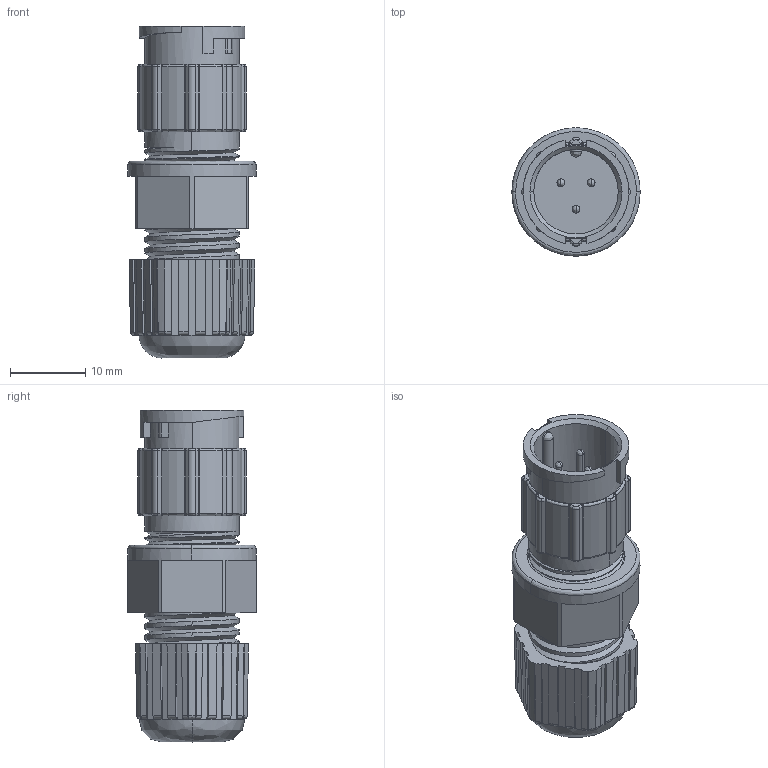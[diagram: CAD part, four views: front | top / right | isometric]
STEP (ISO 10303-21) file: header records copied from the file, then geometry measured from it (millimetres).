
FILE_DESCRIPTION (( 'STEP AP203' ), '1' );
FILE_NAME ('868-03B-103KIT.STEP', '2025-12-17T18:11:48', ( '' ), ( '' ), 'SwSTEP 2.0', 'SolidWorks 2020', '' );
FILE_SCHEMA (( 'CONFIG_CONTROL_DESIGN' ));
Length unit declared in the file: millimetre
Products named in the file (1): 868-03B-103KIT
Bounding box: 17 x 17 x 44 mm (x, y, z)
Volume: 4651.1 mm3; surface area: 5368.1 mm2
Topology: 1 solids, 1 shells, 563 faces, 1441 edges, 883 vertices
Faces by surface type: cylinder 203, plane 182, bspline 140, cone 38
Entity records: 29915 total; most frequent: CARTESIAN_POINT 17880, ORIENTED_EDGE 2856, DIRECTION 1986, EDGE_CURVE 1428, VERTEX_POINT 883, AXIS2_PLACEMENT_3D 735, EDGE_LOOP 583, FACE_OUTER_BOUND 563
